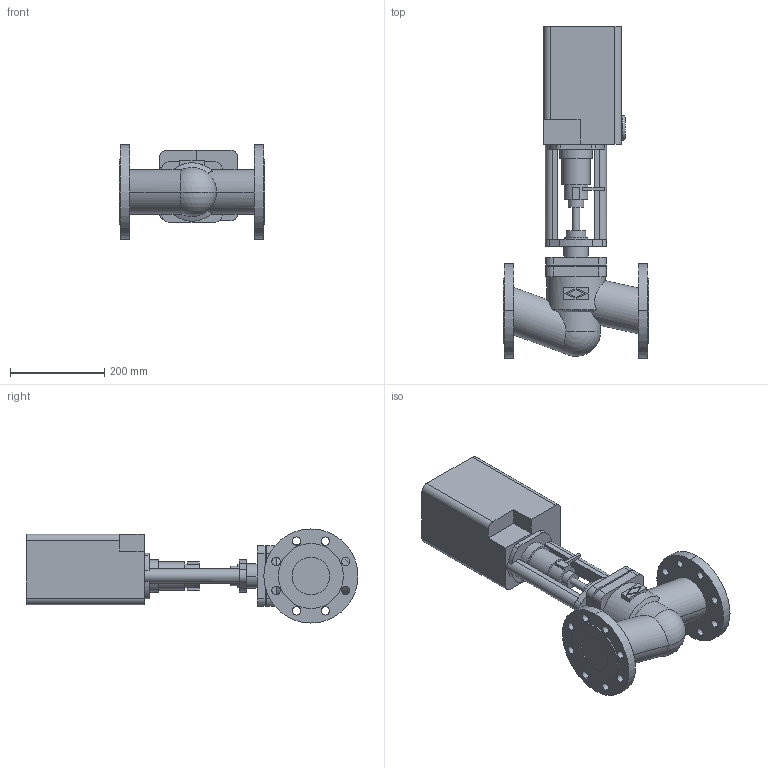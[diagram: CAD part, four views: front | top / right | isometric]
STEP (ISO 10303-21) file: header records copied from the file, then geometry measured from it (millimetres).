
FILE_DESCRIPTION(('OneSpaceDesigner STEP Export'),'2;1');
FILE_NAME('c000001181.stp','2005-02-16T12:08:08',(''),(''),'OneSpace Designer STEP processor (Jan. 2003) for AP203(Solid Model)','OneSpace Designer 12.01D 09-Jul-2004 (C) CoCreate Software GmbH','');
FILE_SCHEMA(('CONFIG_CONTROL_DESIGN'));
Length unit declared in the file: millimetre
Products named in the file (2): 1; 2
Bounding box: 310 x 705.5 x 200 mm (x, y, z)
Volume: 11615672.2 mm3; surface area: 597209.4 mm2
Topology: 2 solids, 2 shells, 190 faces, 487 edges, 322 vertices
Faces by surface type: cylinder 98, plane 86, sphere 2, cone 2, torus 2
Entity records: 5772 total; most frequent: CARTESIAN_POINT 1182, ORIENTED_EDGE 970, DIRECTION 842, EDGE_CURVE 485, VERTEX_POINT 322, AXIS2_PLACEMENT_3D 293, VECTOR 256, LINE 256
